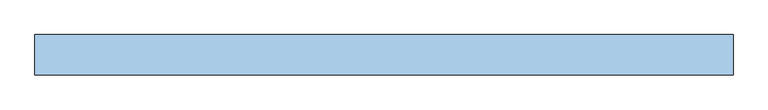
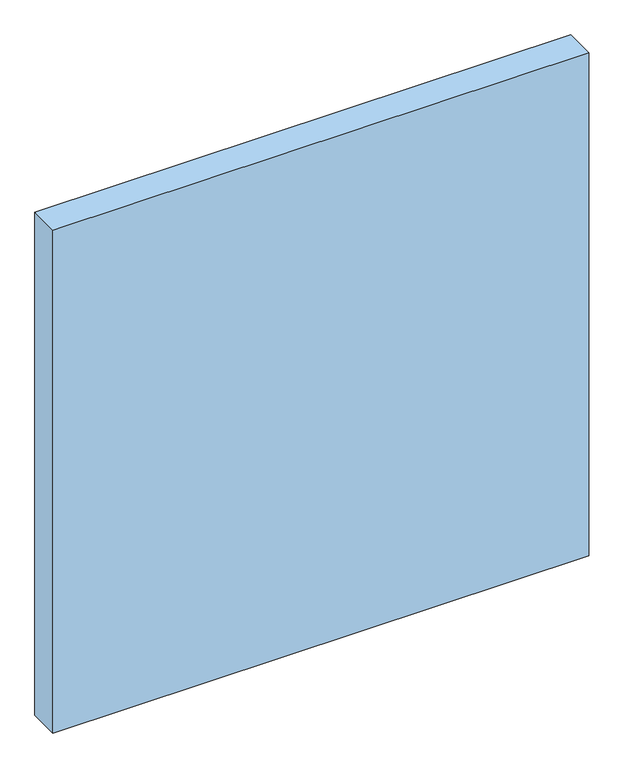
"""IFC4 building model written with IfcOpenShell, lengths in millimetres: window geometry, Dr_Проем-Четверти_окно : ОК."""

from ifc_helpers import new_model, si_unit, frame, origin, place, context, project, spatial, polyline, outline, extrude, source, transform, mapped, element, save


def window_2c0a0618(model_context):
    return source(origin(), model_context, "Body", "SweptSolid", [
        extrude(outline(polyline([(1430.0, -50.0), (-1160.0, -50.0), (-1160.0, 100.0), (1430.0, 100.0), (1430.0, -50.0)])), frame((0.0, 0.0, -60.0), z_axis=(0.0, 0.0, 1.0), x_axis=(1.0, 0.0, 0.0)), (0.0, 0.0, 1.0), 2570.0),
    ])


if __name__ == "__main__":
    model = new_model("IFC4")
    model_context = context("Model", 3, world=origin())
    ifc_project = project(units=[si_unit("LENGTHUNIT", "METRE", prefix="MILLI")], contexts=[model_context])
    site = spatial("IfcSite", under=ifc_project)
    building = spatial("IfcBuilding", under=site)
    placement = place(None, origin())
    window_shape = window_2c0a0618(model_context)
    element("IfcWindow", 1, ObjectType="Dr_Проем-Четверти_окно : ОК", at=placement, inside=building, context=model_context, shape_type="MappedRepresentation", body=[
        mapped(window_shape, transform((0.0, 0.0, 0.0), x_axis=(1.0, 0.0, 0.0), y_axis=(0.0, 1.0, 0.0), z_axis=(0.0, 0.0, 1.0))),
    ])
    save(model, "model.ifc")
